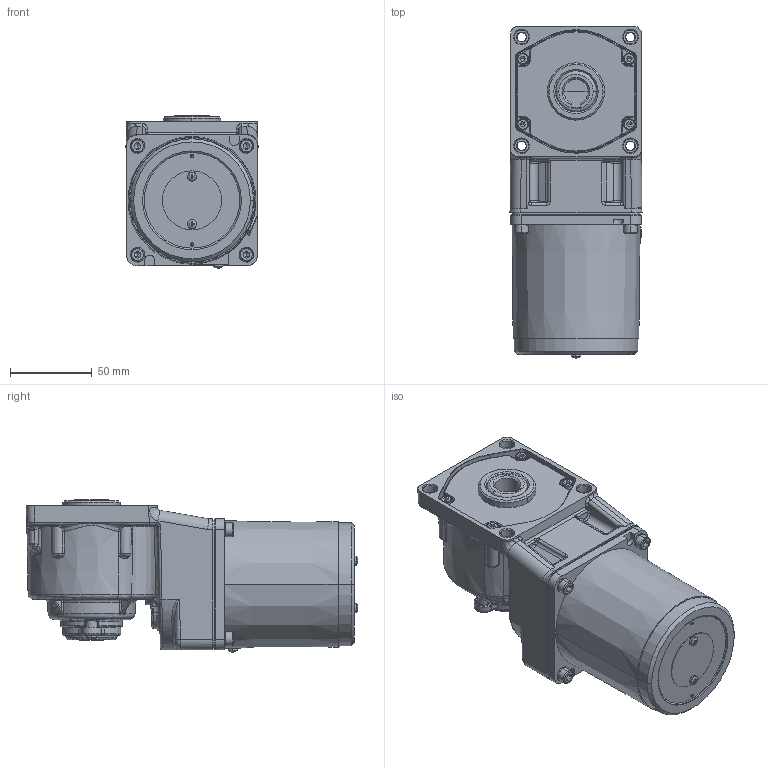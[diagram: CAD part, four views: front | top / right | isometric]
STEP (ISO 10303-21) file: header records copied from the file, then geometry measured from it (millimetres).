
FILE_DESCRIPTION (( 'STEP AP203' ), '1' );
FILE_NAME ('4RK25GN-C(4GN3RC-180RC)ÐÂ.STEP', '2022-02-25T07:41:57', ( 'PC' ), ( 'Microsoft' ), 'SwSTEP 2.0', 'SolidWorks 2014', '' );
FILE_SCHEMA (( 'CONFIG_CONTROL_DESIGN' ));
Length unit declared in the file: millimetre
Products named in the file (13): 80綴傷裔; zd-4gn1000rc-504-001-20211209（实心外形）; cross recessed pan head screws gb_GB_CROSS_SCREWS_TYPE1 M3X6-6  H type-N; 80眻褒眊裔; 80諾陑怀堤粣; hexagon socket head cap screws gb_GB_FASTENER_SCREWS_HSHCS M4X12-N; M5X20-S^4ik25gn-c-4gn3-180rc_asm(2)_80RC; 4IK25GN-C.stp; 80ZNGB; 90HXQ.stp; M3; PRT0006.stp; 4RK25GN-C(4GN3RC-180RC)陔
Assembly tree (20 placements, depth 2):
  4RK25GN-C(4GN3RC-180RC)陔
    80綴傷裔
    zd-4gn1000rc-504-001-20211209（实心外形）
    cross recessed pan head screws gb_GB_CROSS_SCREWS_TYPE1 M3X6-6  H type-N  x2
    80眻褒眊裔
    80諾陑怀堤粣
    hexagon socket head cap screws gb_GB_FASTENER_SCREWS_HSHCS M4X12-N  x4
    M5X20-S^4ik25gn-c-4gn3-180rc_asm(2)_80RC  x4
    4IK25GN-C.stp
    80ZNGB
    90HXQ.stp
    M3  x2
    PRT0006.stp
Bounding box: 80.6 x 202.57 x 92.81 mm (x, y, z)
Volume: 626646.3 mm3; surface area: 151679.9 mm2
Topology: 20 solids, 21 shells, 2661 faces, 6012 edges, 3375 vertices
Faces by surface type: cone 1045, cylinder 727, bspline 421, plane 394, torus 54, sphere 20
Entity records: 76974 total; most frequent: CARTESIAN_POINT 41005, ORIENTED_EDGE 7664, DIRECTION 6526, EDGE_CURVE 3832, AXIS2_PLACEMENT_3D 2608, VERTEX_POINT 2235, EDGE_LOOP 1779, ADVANCED_FACE 1680
